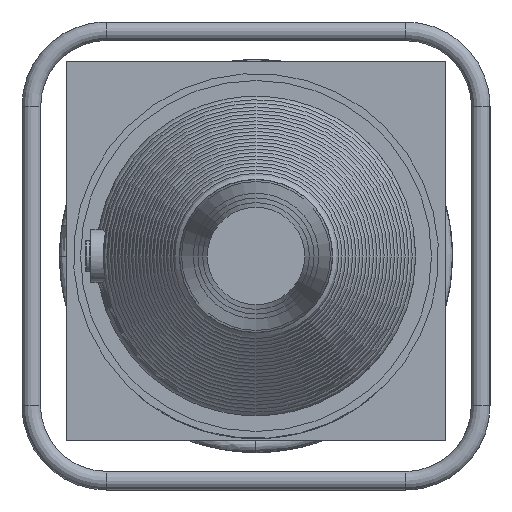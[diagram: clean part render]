
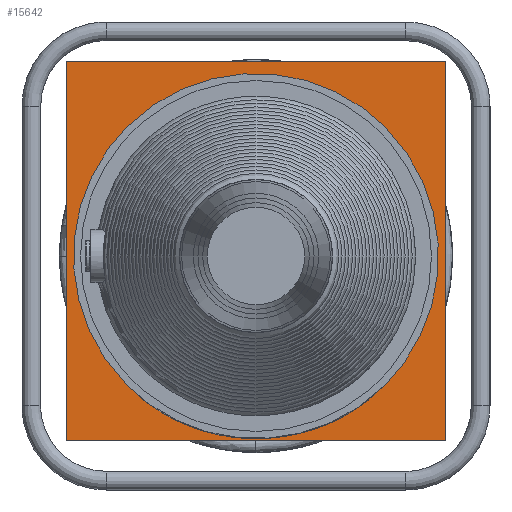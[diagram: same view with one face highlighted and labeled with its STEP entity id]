
A CAD part, left-side view. The second image highlights one B-rep face of the part: STEP entity #15642.
In plain terms, the highlighted planar face has unit normal (-1, 0, 0).
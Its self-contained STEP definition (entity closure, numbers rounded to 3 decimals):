
#1538=PLANE('',#16606);
#2407=LINE('',#41332,#3287);
#2411=LINE('',#41340,#3291);
#2415=LINE('',#41347,#3295);
#2418=LINE('',#41352,#3298);
#3287=VECTOR('',#19373,405.);
#3291=VECTOR('',#19379,405.);
#3295=VECTOR('',#19385,405.);
#3298=VECTOR('',#19390,405.);
#3623=FACE_BOUND('',#5690,.T.);
#4553=FACE_OUTER_BOUND('',#5689,.T.);
#5689=EDGE_LOOP('',(#14235,#14236,#14237,#14238));
#5690=EDGE_LOOP('',(#14239));
#6067=CIRCLE('',#16288,195.);
#7579=VERTEX_POINT('',#36405);
#7728=VERTEX_POINT('',#41330);
#7729=VERTEX_POINT('',#41331);
#7732=VERTEX_POINT('',#41339);
#7734=VERTEX_POINT('',#41346);
#9734=EDGE_CURVE('',#7579,#7579,#6067,.T.);
#9909=EDGE_CURVE('',#7728,#7729,#2407,.T.);
#9913=EDGE_CURVE('',#7729,#7732,#2411,.T.);
#9917=EDGE_CURVE('',#7732,#7734,#2415,.T.);
#9920=EDGE_CURVE('',#7734,#7728,#2418,.T.);
#14235=ORIENTED_EDGE('',*,*,#9920,.T.);
#14236=ORIENTED_EDGE('',*,*,#9909,.T.);
#14237=ORIENTED_EDGE('',*,*,#9913,.T.);
#14238=ORIENTED_EDGE('',*,*,#9917,.T.);
#14239=ORIENTED_EDGE('',*,*,#9734,.T.);
#15642=ADVANCED_FACE('',(#4553,#3623),#1538,.T.);
#16288=AXIS2_PLACEMENT_3D('',#36406,#18743,#18744);
#16606=AXIS2_PLACEMENT_3D('',#41354,#19392,#19393);
#18743=DIRECTION('center_axis',(1.,0.,0.));
#18744=DIRECTION('ref_axis',(0.,0.995,0.103));
#19373=DIRECTION('',(0.,0.,-1.));
#19379=DIRECTION('',(0.,-1.,0.));
#19385=DIRECTION('',(0.,0.,1.));
#19390=DIRECTION('',(0.,1.,0.));
#19392=DIRECTION('center_axis',(-1.,0.,0.));
#19393=DIRECTION('ref_axis',(0.,0.,-1.));
#36405=CARTESIAN_POINT('',(-112.151,193.959,20.121));
#36406=CARTESIAN_POINT('Origin',(-112.151,0.,
0.));
#41330=CARTESIAN_POINT('',(-112.151,202.5,207.753));
#41331=CARTESIAN_POINT('',(-112.151,202.5,-197.247));
#41332=CARTESIAN_POINT('',(-112.151,202.5,207.753));
#41339=CARTESIAN_POINT('',(-112.151,-202.5,-197.247));
#41340=CARTESIAN_POINT('',(-112.151,202.5,-197.247));
#41346=CARTESIAN_POINT('',(-112.151,-202.5,207.753));
#41347=CARTESIAN_POINT('',(-112.151,-202.5,-197.247));
#41352=CARTESIAN_POINT('',(-112.151,-202.5,207.753));
#41354=CARTESIAN_POINT('Origin',(-112.151,0.,5.253));
